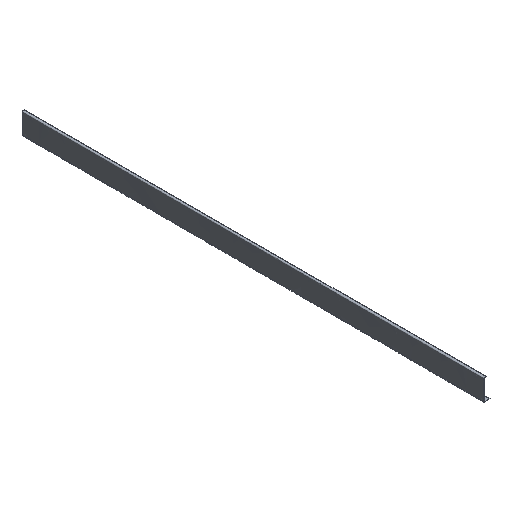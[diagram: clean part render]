
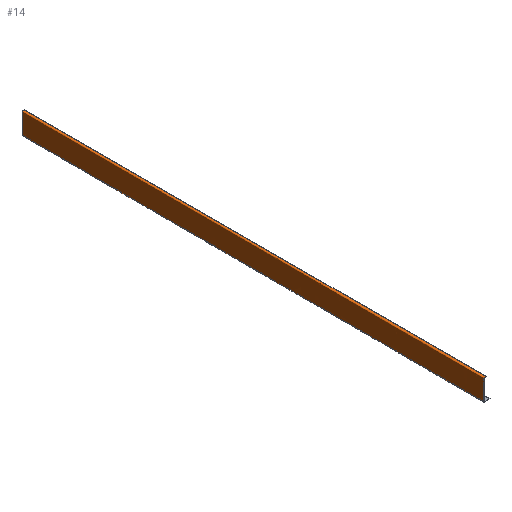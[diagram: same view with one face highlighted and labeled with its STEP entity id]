
A CAD part, isometric view. The second image highlights one B-rep face of the part: STEP entity #14.
In plain terms, the highlighted free-form (B-spline) face has degree [1, 2] with [2, 11] control points.
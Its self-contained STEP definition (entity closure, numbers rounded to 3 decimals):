
#14=ADVANCED_FACE('',(#38,#32,#33,#34),#318,.T.);
#32=FACE_BOUND('',#57,.T.);
#33=FACE_BOUND('',#58,.T.);
#34=FACE_BOUND('',#59,.T.);
#38=FACE_OUTER_BOUND('',#56,.T.);
#56=EDGE_LOOP('',(#80,#81,#82,#83));
#57=EDGE_LOOP('',(#84,#85,#86,#87));
#58=EDGE_LOOP('',(#88,#89,#90,#91));
#59=EDGE_LOOP('',(#92,#93,#94,#95));
#80=ORIENTED_EDGE('',*,*,#176,.T.);
#81=ORIENTED_EDGE('',*,*,#191,.T.);
#82=ORIENTED_EDGE('',*,*,#177,.F.);
#83=ORIENTED_EDGE('',*,*,#178,.F.);
#84=ORIENTED_EDGE('',*,*,#179,.F.);
#85=ORIENTED_EDGE('',*,*,#182,.F.);
#86=ORIENTED_EDGE('',*,*,#181,.F.);
#87=ORIENTED_EDGE('',*,*,#180,.F.);
#88=ORIENTED_EDGE('',*,*,#185,.F.);
#89=ORIENTED_EDGE('',*,*,#184,.F.);
#90=ORIENTED_EDGE('',*,*,#183,.F.);
#91=ORIENTED_EDGE('',*,*,#186,.F.);
#92=ORIENTED_EDGE('',*,*,#187,.F.);
#93=ORIENTED_EDGE('',*,*,#188,.F.);
#94=ORIENTED_EDGE('',*,*,#189,.F.);
#95=ORIENTED_EDGE('',*,*,#190,.F.);
#176=EDGE_CURVE('',#273,#272,#251,.T.);
#177=EDGE_CURVE('',#275,#274,#252,.T.);
#178=EDGE_CURVE('',#273,#275,#224,.T.);
#179=EDGE_CURVE('',#276,#277,#225,.T.);
#180=EDGE_CURVE('',#277,#278,#226,.T.);
#181=EDGE_CURVE('',#278,#279,#227,.T.);
#182=EDGE_CURVE('',#279,#276,#228,.T.);
#183=EDGE_CURVE('',#280,#281,#229,.T.);
#184=EDGE_CURVE('',#281,#282,#230,.T.);
#185=EDGE_CURVE('',#282,#283,#231,.T.);
#186=EDGE_CURVE('',#283,#280,#232,.T.);
#187=EDGE_CURVE('',#284,#285,#233,.T.);
#188=EDGE_CURVE('',#286,#284,#234,.T.);
#189=EDGE_CURVE('',#287,#286,#235,.T.);
#190=EDGE_CURVE('',#285,#287,#236,.T.);
#191=EDGE_CURVE('',#272,#274,#237,.T.);
#224=B_SPLINE_CURVE_WITH_KNOTS('',1,(#600,#601),.UNSPECIFIED.,.F.,.F.,(2,
2),(0.,1985.),.UNSPECIFIED.);
#225=B_SPLINE_CURVE_WITH_KNOTS('',3,(#602,#603,#604,#605),.UNSPECIFIED.,
 .F.,.F.,(4,4),(0.,7.),.UNSPECIFIED.);
#226=B_SPLINE_CURVE_WITH_KNOTS('',3,(#606,#607,#608,#609),.UNSPECIFIED.,
 .F.,.F.,(4,4),(0.,7.),.UNSPECIFIED.);
#227=B_SPLINE_CURVE_WITH_KNOTS('',3,(#610,#611,#612,#613),.UNSPECIFIED.,
 .F.,.F.,(4,4),(0.,7.),.UNSPECIFIED.);
#228=B_SPLINE_CURVE_WITH_KNOTS('',3,(#614,#615,#616,#617),.UNSPECIFIED.,
 .F.,.F.,(4,4),(0.,7.),.UNSPECIFIED.);
#229=B_SPLINE_CURVE_WITH_KNOTS('',3,(#618,#619,#620,#621),.UNSPECIFIED.,
 .F.,.F.,(4,4),(0.,7.),.UNSPECIFIED.);
#230=B_SPLINE_CURVE_WITH_KNOTS('',3,(#622,#623,#624,#625),.UNSPECIFIED.,
 .F.,.F.,(4,4),(0.,7.),.UNSPECIFIED.);
#231=B_SPLINE_CURVE_WITH_KNOTS('',3,(#626,#627,#628,#629),.UNSPECIFIED.,
 .F.,.F.,(4,4),(0.,7.),.UNSPECIFIED.);
#232=B_SPLINE_CURVE_WITH_KNOTS('',3,(#630,#631,#632,#633),.UNSPECIFIED.,
 .F.,.F.,(4,4),(0.,7.),.UNSPECIFIED.);
#233=B_SPLINE_CURVE_WITH_KNOTS('',3,(#634,#635,#636,#637),.UNSPECIFIED.,
 .F.,.F.,(4,4),(-7.,0.),.UNSPECIFIED.);
#234=B_SPLINE_CURVE_WITH_KNOTS('',3,(#638,#639,#640,#641),.UNSPECIFIED.,
 .F.,.F.,(4,4),(-7.,0.),.UNSPECIFIED.);
#235=B_SPLINE_CURVE_WITH_KNOTS('',3,(#642,#643,#644,#645),.UNSPECIFIED.,
 .F.,.F.,(4,4),(-7.,0.),.UNSPECIFIED.);
#236=B_SPLINE_CURVE_WITH_KNOTS('',3,(#646,#647,#648,#649),.UNSPECIFIED.,
 .F.,.F.,(4,4),(-7.,0.),.UNSPECIFIED.);
#237=B_SPLINE_CURVE_WITH_KNOTS('',1,(#650,#651,#652,#653,#654,#655,#656,
#657),.UNSPECIFIED.,.F.,.F.,(2,1,1,1,1,1,1,2),(0.,110.,117.,989.,996.,1868.,
1875.,1985.),.UNSPECIFIED.);
#251=(
BOUNDED_CURVE()
B_SPLINE_CURVE(2,(#578,#579,#580,#581,#582,#583,#584,#585,#586,#587,#588),
 .UNSPECIFIED.,.F.,.F.)
B_SPLINE_CURVE_WITH_KNOTS((3,2,2,2,2,3),(0.5,24.5,27.642,67.642,
70.783,78.783),.UNSPECIFIED.)
CURVE()
GEOMETRIC_REPRESENTATION_ITEM()
RATIONAL_B_SPLINE_CURVE((1.,1.,1.,0.707,1.,1.,1.,0.707,
1.,1.,1.))
REPRESENTATION_ITEM('')
);
#252=(
BOUNDED_CURVE()
B_SPLINE_CURVE(2,(#589,#590,#591,#592,#593,#594,#595,#596,#597,#598,#599),
 .UNSPECIFIED.,.F.,.F.)
B_SPLINE_CURVE_WITH_KNOTS((3,2,2,2,2,3),(0.5,24.5,27.642,67.642,
70.783,78.783),.UNSPECIFIED.)
CURVE()
GEOMETRIC_REPRESENTATION_ITEM()
RATIONAL_B_SPLINE_CURVE((1.,1.,1.,0.707,1.,1.,1.,0.707,
1.,1.,1.))
REPRESENTATION_ITEM('')
);
#272=VERTEX_POINT('',#546);
#273=VERTEX_POINT('',#547);
#274=VERTEX_POINT('',#548);
#275=VERTEX_POINT('',#549);
#276=VERTEX_POINT('',#550);
#277=VERTEX_POINT('',#551);
#278=VERTEX_POINT('',#552);
#279=VERTEX_POINT('',#553);
#280=VERTEX_POINT('',#554);
#281=VERTEX_POINT('',#555);
#282=VERTEX_POINT('',#556);
#283=VERTEX_POINT('',#557);
#284=VERTEX_POINT('',#558);
#285=VERTEX_POINT('',#559);
#286=VERTEX_POINT('',#560);
#287=VERTEX_POINT('',#561);
#318=(
BOUNDED_SURFACE()
B_SPLINE_SURFACE(1,2,((#444,#445,#446,#447,#448,#449,#450,#451,#452,#453,
#454),(#455,#456,#457,#458,#459,#460,#461,#462,#463,#464,#465)),
 .UNSPECIFIED.,.F.,.F.,.F.)
B_SPLINE_SURFACE_WITH_KNOTS((2,2),(3,2,2,2,2,3),(0.,1985.),(-78.783,
-70.783,-67.642,-27.642,-24.5,-0.5),
 .UNSPECIFIED.)
GEOMETRIC_REPRESENTATION_ITEM()
RATIONAL_B_SPLINE_SURFACE(((1.,1.,1.,0.707,1.,1.,1.,0.707,
1.,1.,1.),(1.,1.,1.,0.707,1.,1.,1.,0.707,1.,1.,
1.)))
REPRESENTATION_ITEM('')
SURFACE()
);
#444=CARTESIAN_POINT('',(-16.,0.,91.5));
#445=CARTESIAN_POINT('',(-20.,0.,91.5));
#446=CARTESIAN_POINT('',(-24.,0.,91.5));
#447=CARTESIAN_POINT('',(-26.5,0.,91.5));
#448=CARTESIAN_POINT('',(-26.5,0.,89.));
#449=CARTESIAN_POINT('',(-26.5,0.,22.));
#450=CARTESIAN_POINT('',(-26.5,0.,2.));
#451=CARTESIAN_POINT('',(-26.5,0.,-0.5));
#452=CARTESIAN_POINT('',(-24.,0.,-0.5));
#453=CARTESIAN_POINT('',(-12.,0.,-0.5));
#454=CARTESIAN_POINT('',(0.,0.,-0.5));
#455=CARTESIAN_POINT('',(-16.,1985.,91.5));
#456=CARTESIAN_POINT('',(-20.,1985.,91.5));
#457=CARTESIAN_POINT('',(-24.,1985.,91.5));
#458=CARTESIAN_POINT('',(-26.5,1985.,91.5));
#459=CARTESIAN_POINT('',(-26.5,1985.,89.));
#460=CARTESIAN_POINT('',(-26.5,1985.,22.));
#461=CARTESIAN_POINT('',(-26.5,1985.,2.));
#462=CARTESIAN_POINT('',(-26.5,1985.,-0.5));
#463=CARTESIAN_POINT('',(-24.,1985.,-0.5));
#464=CARTESIAN_POINT('',(-12.,1985.,-0.5));
#465=CARTESIAN_POINT('',(0.,1985.,-0.5));
#546=CARTESIAN_POINT('',(-16.,0.,91.5));
#547=CARTESIAN_POINT('',(0.,0.,-0.5));
#548=CARTESIAN_POINT('',(-16.,1985.,91.5));
#549=CARTESIAN_POINT('',(0.,1985.,-0.5));
#550=CARTESIAN_POINT('',(-16.,110.,-0.5));
#551=CARTESIAN_POINT('',(-16.,117.,-0.5));
#552=CARTESIAN_POINT('',(-9.,117.,-0.5));
#553=CARTESIAN_POINT('',(-9.,110.,-0.5));
#554=CARTESIAN_POINT('',(-16.,989.,-0.5));
#555=CARTESIAN_POINT('',(-16.,996.,-0.5));
#556=CARTESIAN_POINT('',(-9.,996.,-0.5));
#557=CARTESIAN_POINT('',(-9.,989.,-0.5));
#558=CARTESIAN_POINT('',(-16.,1868.,-0.5));
#559=CARTESIAN_POINT('',(-16.,1875.,-0.5));
#560=CARTESIAN_POINT('',(-9.,1868.,-0.5));
#561=CARTESIAN_POINT('',(-9.,1875.,-0.5));
#578=CARTESIAN_POINT('',(0.,0.,-0.5));
#579=CARTESIAN_POINT('',(-12.,0.,-0.5));
#580=CARTESIAN_POINT('',(-24.,0.,-0.5));
#581=CARTESIAN_POINT('',(-26.5,0.,-0.5));
#582=CARTESIAN_POINT('',(-26.5,0.,2.));
#583=CARTESIAN_POINT('',(-26.5,0.,22.));
#584=CARTESIAN_POINT('',(-26.5,0.,89.));
#585=CARTESIAN_POINT('',(-26.5,0.,91.5));
#586=CARTESIAN_POINT('',(-24.,0.,91.5));
#587=CARTESIAN_POINT('',(-20.,0.,91.5));
#588=CARTESIAN_POINT('',(-16.,0.,91.5));
#589=CARTESIAN_POINT('',(0.,1985.,-0.5));
#590=CARTESIAN_POINT('',(-12.,1985.,-0.5));
#591=CARTESIAN_POINT('',(-24.,1985.,-0.5));
#592=CARTESIAN_POINT('',(-26.5,1985.,-0.5));
#593=CARTESIAN_POINT('',(-26.5,1985.,2.));
#594=CARTESIAN_POINT('',(-26.5,1985.,22.));
#595=CARTESIAN_POINT('',(-26.5,1985.,89.));
#596=CARTESIAN_POINT('',(-26.5,1985.,91.5));
#597=CARTESIAN_POINT('',(-24.,1985.,91.5));
#598=CARTESIAN_POINT('',(-20.,1985.,91.5));
#599=CARTESIAN_POINT('',(-16.,1985.,91.5));
#600=CARTESIAN_POINT('',(0.,0.,-0.5));
#601=CARTESIAN_POINT('',(0.,1985.,-0.5));
#602=CARTESIAN_POINT('',(-16.,110.,-0.5));
#603=CARTESIAN_POINT('',(-16.,112.333,-0.5));
#604=CARTESIAN_POINT('',(-16.,114.667,-0.5));
#605=CARTESIAN_POINT('',(-16.,117.,-0.5));
#606=CARTESIAN_POINT('',(-16.,117.,-0.5));
#607=CARTESIAN_POINT('',(-13.667,117.,-0.5));
#608=CARTESIAN_POINT('',(-11.333,117.,-0.5));
#609=CARTESIAN_POINT('',(-9.,117.,-0.5));
#610=CARTESIAN_POINT('',(-9.,117.,-0.5));
#611=CARTESIAN_POINT('',(-9.,114.667,-0.5));
#612=CARTESIAN_POINT('',(-9.,112.333,-0.5));
#613=CARTESIAN_POINT('',(-9.,110.,-0.5));
#614=CARTESIAN_POINT('',(-9.,110.,-0.5));
#615=CARTESIAN_POINT('',(-11.333,110.,-0.5));
#616=CARTESIAN_POINT('',(-13.667,110.,-0.5));
#617=CARTESIAN_POINT('',(-16.,110.,-0.5));
#618=CARTESIAN_POINT('',(-16.,989.,-0.5));
#619=CARTESIAN_POINT('',(-16.,991.333,-0.5));
#620=CARTESIAN_POINT('',(-16.,993.667,-0.5));
#621=CARTESIAN_POINT('',(-16.,996.,-0.5));
#622=CARTESIAN_POINT('',(-16.,996.,-0.5));
#623=CARTESIAN_POINT('',(-13.667,996.,-0.5));
#624=CARTESIAN_POINT('',(-11.333,996.,-0.5));
#625=CARTESIAN_POINT('',(-9.,996.,-0.5));
#626=CARTESIAN_POINT('',(-9.,996.,-0.5));
#627=CARTESIAN_POINT('',(-9.,993.667,-0.5));
#628=CARTESIAN_POINT('',(-9.,991.333,-0.5));
#629=CARTESIAN_POINT('',(-9.,989.,-0.5));
#630=CARTESIAN_POINT('',(-9.,989.,-0.5));
#631=CARTESIAN_POINT('',(-11.333,989.,-0.5));
#632=CARTESIAN_POINT('',(-13.667,989.,-0.5));
#633=CARTESIAN_POINT('',(-16.,989.,-0.5));
#634=CARTESIAN_POINT('',(-16.,1868.,-0.5));
#635=CARTESIAN_POINT('',(-16.,1870.333,-0.5));
#636=CARTESIAN_POINT('',(-16.,1872.667,-0.5));
#637=CARTESIAN_POINT('',(-16.,1875.,-0.5));
#638=CARTESIAN_POINT('',(-9.,1868.,-0.5));
#639=CARTESIAN_POINT('',(-11.333,1868.,-0.5));
#640=CARTESIAN_POINT('',(-13.667,1868.,-0.5));
#641=CARTESIAN_POINT('',(-16.,1868.,-0.5));
#642=CARTESIAN_POINT('',(-9.,1875.,-0.5));
#643=CARTESIAN_POINT('',(-9.,1872.667,-0.5));
#644=CARTESIAN_POINT('',(-9.,1870.333,-0.5));
#645=CARTESIAN_POINT('',(-9.,1868.,-0.5));
#646=CARTESIAN_POINT('',(-16.,1875.,-0.5));
#647=CARTESIAN_POINT('',(-13.667,1875.,-0.5));
#648=CARTESIAN_POINT('',(-11.333,1875.,-0.5));
#649=CARTESIAN_POINT('',(-9.,1875.,-0.5));
#650=CARTESIAN_POINT('',(-16.,0.,91.5));
#651=CARTESIAN_POINT('',(-16.,110.,91.5));
#652=CARTESIAN_POINT('',(-16.,117.,91.5));
#653=CARTESIAN_POINT('',(-16.,989.,91.5));
#654=CARTESIAN_POINT('',(-16.,996.,91.5));
#655=CARTESIAN_POINT('',(-16.,1868.,91.5));
#656=CARTESIAN_POINT('',(-16.,1875.,91.5));
#657=CARTESIAN_POINT('',(-16.,1985.,91.5));
